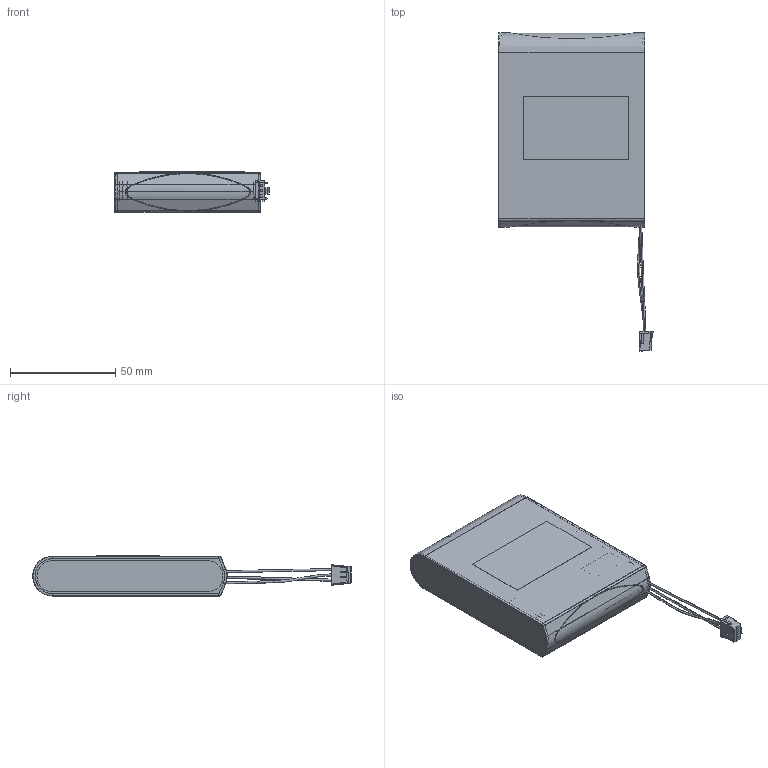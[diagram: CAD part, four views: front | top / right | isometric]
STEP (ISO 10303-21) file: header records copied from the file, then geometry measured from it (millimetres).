
FILE_DESCRIPTION((''),'2;1');
FILE_NAME('15012929Z_DMEC_28002326_PO4-5B','2018-11-09T12:05:04',('juergen.hrach'),(''),'CREO PARAMETRIC BY PTC INC, 2017380','CREO PARAMETRIC BY PTC INC, 2017380','');
FILE_SCHEMA(('AUTOMOTIVE_DESIGN { 1 0 10303 214 1 1 1 1 }'));
Products named in the file (1): 15012929Z_DMEC_28002326_PO4-5B
Bounding box: 73.41 x 151.51 x 19.1 mm (x, y, z)
Surface area: 102229.1 mm2
Topology: 9 solids, 15 shells, 706 faces, 1998 edges, 1289 vertices
Faces by surface type: bspline 410, revolution 296
Entity records: 48008 total; most frequent: CARTESIAN_POINT 25131, ORIENTED_EDGE 3927, DIRECTION 2457, EDGE_CURVE 1987, PRESENTATION_STYLE_ASSIGNMENT 1627, STYLED_ITEM 1457, CURVE_STYLE 1419, VERTEX_POINT 1289
